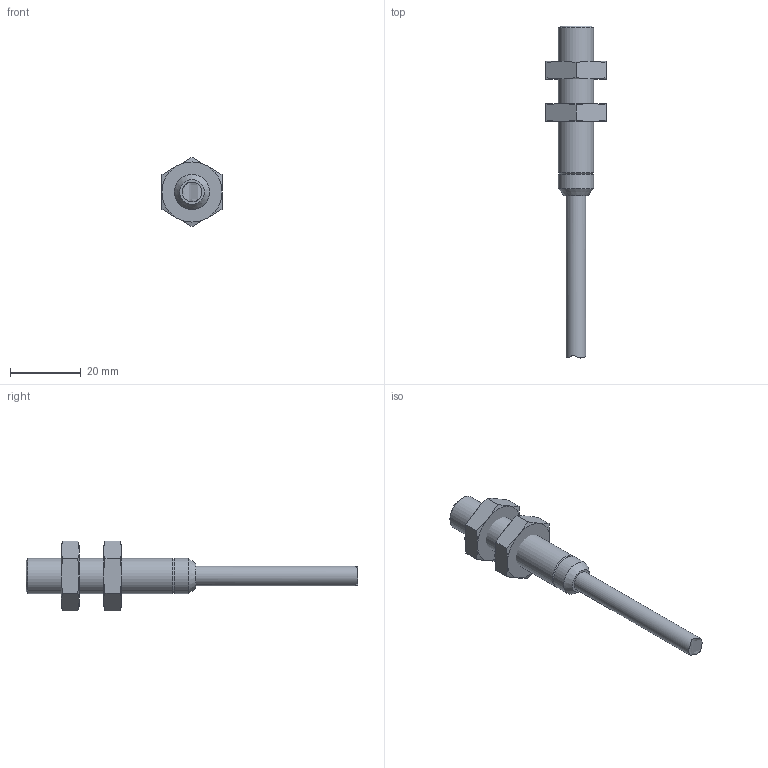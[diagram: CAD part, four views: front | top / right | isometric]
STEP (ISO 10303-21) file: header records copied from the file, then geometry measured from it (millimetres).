
FILE_DESCRIPTION(/* description */ ('Katalogmodell Elobau'),/* implementation_level */ '2;1');
FILE_NAME(/* name */ '128___A.stp',/* time_stamp */ '2014-09-24T06:31:05+02:00',/* author */ ('Elobau GmbH & Co. KG'),/* organization */ ('Elobau GmbH & Co. KG'),/* preprocessor_version */ 'ST-DEVELOPER v15',/* originating_system */ 'SIEMENS PLM Software NX 8.5',/* authorisation */ '');
FILE_SCHEMA (('AUTOMOTIVE_DESIGN { 1 0 10303 214 3 1 1 1 }'));
Length unit declared in the file: millimetre
Products named in the file (1): 128..._A
Bounding box: 17 x 93.97 x 19.63 mm (x, y, z)
Volume: 7337.3 mm3; surface area: 4010.5 mm2
Topology: 3 solids, 3 shells, 50 faces, 101 edges, 59 vertices
Faces by surface type: cone 27, plane 19, cylinder 3, extrusion 1
Full cylindrical faces by diameter (mm): 5.6 x1, 10 x2
Entity records: 1374 total; most frequent: CARTESIAN_POINT 386, ORIENTED_EDGE 186, DIRECTION 177, EDGE_CURVE 93, AXIS2_PLACEMENT_3D 82, EDGE_LOOP 58, VERTEX_POINT 57, ADVANCED_FACE 50
